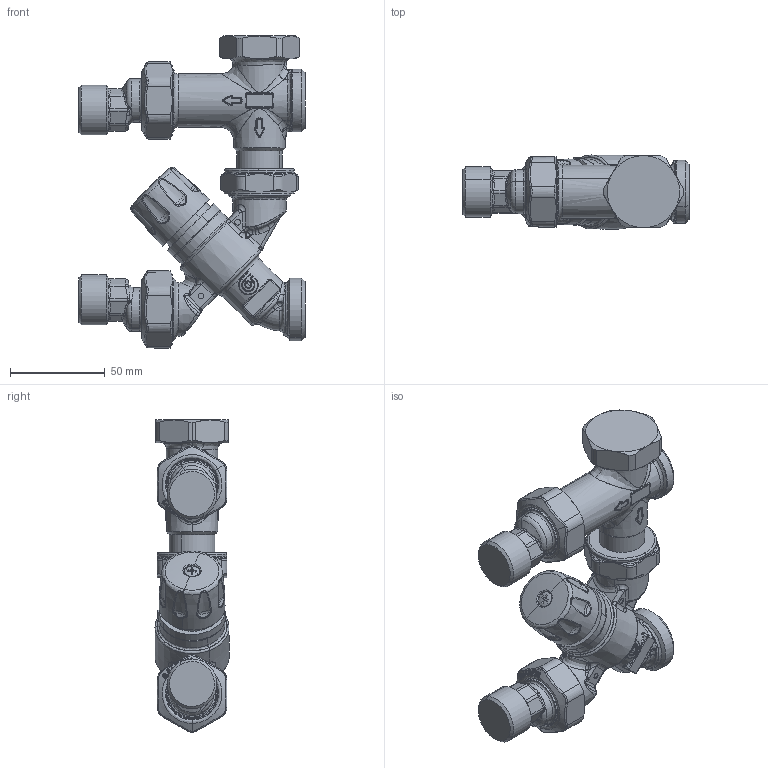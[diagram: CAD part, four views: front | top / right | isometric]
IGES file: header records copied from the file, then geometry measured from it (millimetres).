
Start section: START RECORD GO HERE.
Global section: file name: IGES_520152_-_TST.igs; native system: DASSAULT SYSTEMES CATIA Version 5-6 Release 2019 - www.3ds.com; preprocessor: V5-6R2019_5.29.3.0.06-20-2019.20.00; author: advantage; organization: CALEFFI; date: 20210226.172312; units: millimetre
Bounding box: 119 x 38.97 x 164.33 mm (x, y, z)
Surface area: 45521.9 mm2 (no closed solid volume)
Topology: 0 solids, 0 shells, 2487 faces, 11372 edges, 11214 vertices
Faces by surface type: bspline 1349, revolution 931, plane 207
